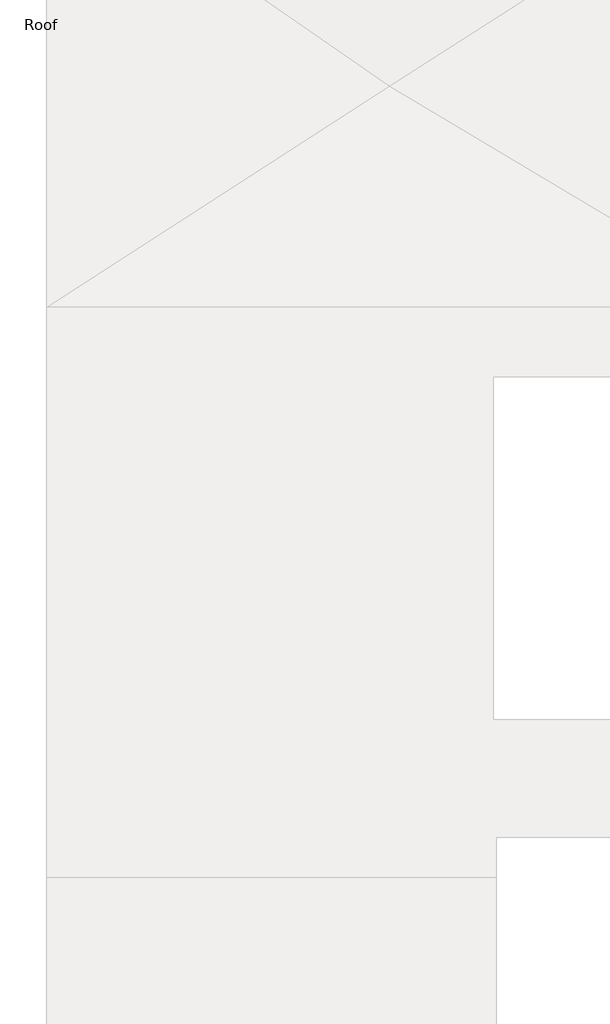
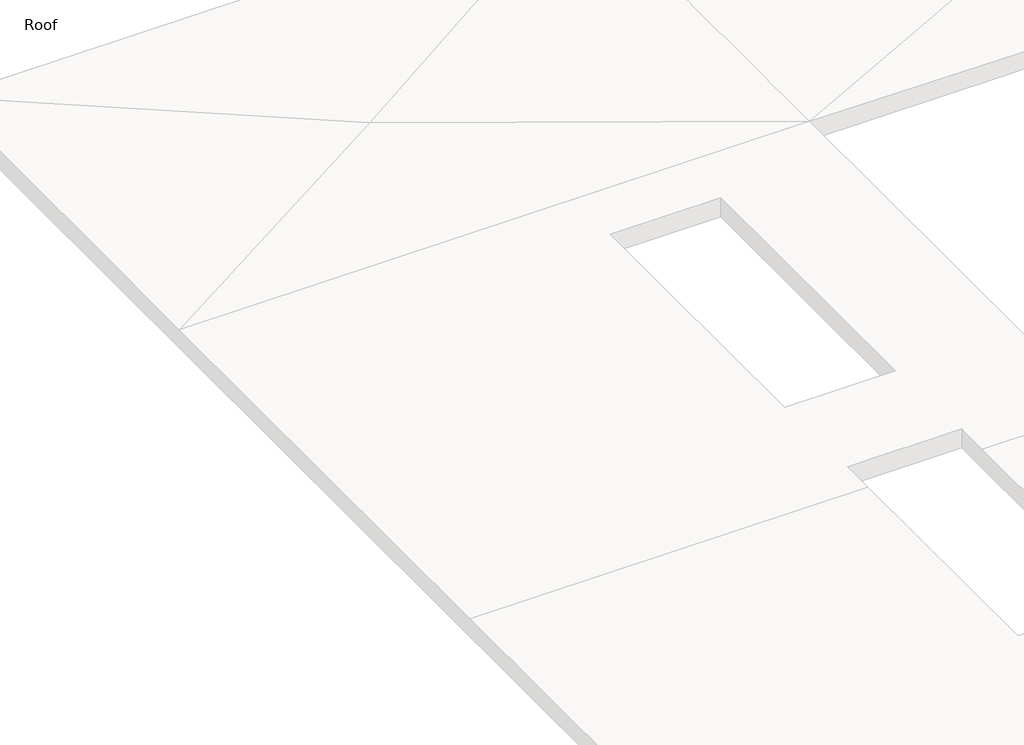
# One storey, part 5 of 7: 16 beams.
"""IFC4 building model written with IfcOpenShell, lengths in millimetres."""

from ifc_helpers import new_model, si_unit, point, frame, frame_2d, origin, place, context, project, spatial, polyline, circle_curve, trimmed, segment, composite_curve, outline, extrude, element, save
from ifc_brep_helpers import plane_surface, revolved_surface, advanced_brep

model = new_model("IFC4")

# Units and contexts
model_context = context("Model", 3, world=origin())
ifc_project = project(units=[si_unit("LENGTHUNIT", "METRE", prefix="MILLI")], contexts=[model_context])

# Site, building, storey
site = spatial("IfcSite", under=ifc_project)
building = spatial("IfcBuilding", under=site)
storey = spatial("IfcBuildingStorey", under=building, Name="Roof", Elevation=11400.0)

# Beams
placement = place(None, origin())
element("IfcBeam", 1, ObjectType="M_Concrete-Rectangular Beam : 400 x 800mm", at=placement, inside=storey, context=model_context, shape_type="SweptSolid", body=[
    extrude(outline(composite_curve([segment(trimmed(circle_curve(frame_2d((-9201.9994416, 19427.3386199)), 225.0), [point((-9001.9994416, 19530.4162606))], [point((-9401.9994416, 19530.4162606))], True, "CARTESIAN"), True, "CONTINUOUS"), segment(polyline([(-9401.9994416, 19530.4162606), (-9401.9994416, 22575.4609793)]), True, "CONTINUOUS"), segment(trimmed(circle_curve(frame_2d((-9201.9994416, 22678.5386199)), 225.0), [point((-9401.9994416, 22575.4609793))], [point((-9098.921801, 22478.5386199))], True, "CARTESIAN"), True, "CONTINUOUS"), segment(polyline([(-9098.921801, 22478.5386199), (-9001.9994416, 22478.5386199), (-9001.9994416, 19530.4162606)]), True, "CONTINUOUS")], self_intersect=False)), frame((0.0, 0.0, 10600.0), z_axis=(0.0, 0.0, 1.0), x_axis=(1.0, 0.0, 0.0)), (0.0, 0.0, 1.0), 400.0),
])
element("IfcBeam", 2, ObjectType="M_Concrete-Rectangular Beam : 400 x 800mm", at=placement, inside=storey, context=model_context, shape_type="AdvancedBrep", body=[
    advanced_brep(
    [(-9401.9994416, 19324.2609793, 10600.0), (-9401.9994416, 13231.2162606, 10600.0), (-9401.9994416, 13231.2162606, 11000.0), (-9401.9994416, 19324.2609793, 11000.0), (-9001.9994416, 19324.2609793, 10600.0), (-9001.9994416, 13328.1386199, 10600.0), (-9001.9994416, 13231.2162606, 10600.0), (-9001.9994416, 19324.2609793, 11000.0), (-9001.9994416, 13328.1386199, 11000.0), (-9001.9994416, 13231.2162606, 11000.0)],
    [
        (0, 1),
        (1, 2),
        (2, 3),
        (3, 0),
        (0, 4, circle_curve(frame((-9201.9994416, 19427.3386199, 10600.0), z_axis=(0.0, 0.0, 1.0), x_axis=(-1.0, 0.0, 0.0)), 225.0)),
        (4, 5),
        (5, 6),
        (6, 1, circle_curve(frame((-9201.9994416, 13128.1386199, 10600.0), z_axis=(0.0, 0.0, 1.0), x_axis=(-1.0, 0.0, 0.0)), 225.0)),
        (4, 7),
        (7, 8),
        (8, 9),
        (9, 6),
        (3, 7, circle_curve(frame((-9201.9994416, 19427.3386199, 11000.0), z_axis=(0.0, 0.0, 1.0), x_axis=(-1.0, 0.0, 0.0)), 225.0)),
        (9, 2, circle_curve(frame((-9201.9994416, 13128.1386199, 11000.0), z_axis=(0.0, 0.0, 1.0), x_axis=(-1.0, 0.0, 0.0)), 225.0)),
    ],
    [
        plane_surface(frame((-9401.9994416, 13365.8386199, 11000.0), z_axis=(-1.0, 0.0, 0.0), x_axis=(0.0, 0.0, -1.0))),
        plane_surface(frame((-9201.9994416, 13365.8386199, 10600.0), z_axis=(0.0, 0.0, -1.0), x_axis=(1.0, 0.0, 0.0))),
        plane_surface(frame((-9001.9994416, 13365.8386199, 11000.0), z_axis=(1.0, 0.0, 0.0), x_axis=(0.0, 0.0, 1.0))),
        revolved_surface(polyline([(-9426.9994416, 19427.3386199, 11000.0), (-9426.9994416, 19427.3386199, 10600.0)]), (-9201.9994416, 19427.3386199, 7600.0), (0.0, 0.0, 1.0)),
        revolved_surface(polyline([(-9426.9994416, 13128.1386199, 11000.0), (-9426.9994416, 13128.1386199, 10600.0)]), (-9201.9994416, 13128.1386199, 7600.0), (0.0, 0.0, 1.0)),
        plane_surface(frame((27511.8999097, 22114.0407562, 11000.0), z_axis=(0.0, 0.0, 1.0), x_axis=(0.0, -1.0, 0.0))),
    ],
    [
        (0, [[1, 2, 3, 4]]),
        (1, [[5, 6, 7, 8, -1]]),
        (2, [[-7, -6, 9, 10, 11, 12]]),
        (3, [[-5, -4, 13, -9]]),
        (4, [[-8, -12, 14, -2]]),
        (5, [[-3, -14, -11, -10, -13]]),
    ],
),
])
element("IfcBeam", 3, ObjectType="M_Concrete-Rectangular Beam : 400 x 800mm", at=placement, inside=storey, context=model_context, shape_type="AdvancedBrep", body=[
    advanced_brep(
    [(-9401.9994416, 13025.0609793, 10600.0), (-9401.9994416, 8752.0162606, 10600.0), (-9401.9994416, 8752.0162606, 11000.0), (-9401.9994416, 13025.0609793, 11000.0), (-9098.921801, 12928.1386199, 10600.0), (-9001.9994416, 12928.1386199, 10600.0), (-9001.9994416, 8848.9386199, 10600.0), (-9001.9994416, 8752.0162606, 10600.0), (-9001.9994416, 12928.1386199, 11000.0), (-9001.9994416, 8848.9386199, 11000.0), (-9001.9994416, 8752.0162606, 11000.0), (-9098.921801, 12928.1386199, 11000.0)],
    [
        (0, 1),
        (1, 2),
        (2, 3),
        (3, 0),
        (0, 4, circle_curve(frame((-9201.9994416, 13128.1386199, 10600.0), z_axis=(0.0, 0.0, 1.0), x_axis=(-1.0, 0.0, 0.0)), 225.0)),
        (4, 5),
        (5, 6),
        (6, 7),
        (7, 1, circle_curve(frame((-9201.9994416, 8648.9386199, 10600.0), z_axis=(0.0, 0.0, 1.0), x_axis=(1.0, 0.0, 0.0)), 225.0)),
        (5, 8),
        (8, 9),
        (9, 10),
        (10, 7),
        (3, 11, circle_curve(frame((-9201.9994416, 13128.1386199, 11000.0), z_axis=(0.0, 0.0, 1.0), x_axis=(-1.0, 0.0, 0.0)), 225.0)),
        (11, 4),
        (11, 8),
        (10, 2, circle_curve(frame((-9201.9994416, 8648.9386199, 11000.0), z_axis=(0.0, 0.0, 1.0), x_axis=(1.0, 0.0, 0.0)), 225.0)),
    ],
    [
        plane_surface(frame((-9401.9994416, 8886.6386199, 11000.0), z_axis=(-1.0, 0.0, 0.0), x_axis=(0.0, 0.0, -1.0))),
        plane_surface(frame((-9201.9994416, 8886.6386199, 10600.0), z_axis=(0.0, 0.0, -1.0), x_axis=(1.0, 0.0, 0.0))),
        plane_surface(frame((-9001.9994416, 8886.6386199, 11000.0), z_axis=(1.0, 0.0, 0.0), x_axis=(0.0, 0.0, 1.0))),
        revolved_surface(polyline([(-9426.9994416, 13128.1386199, 11000.0), (-9426.9994416, 13128.1386199, 10600.0)]), (-9201.9994416, 13128.1386199, 7600.0), (0.0, 0.0, 1.0)),
        plane_surface(frame((-8964.2994416, 12928.1386199, 10600.0), z_axis=(0.0, 1.0, 0.0), x_axis=(1.0, 0.0, 0.0))),
        revolved_surface(polyline([(-8976.9994416, 8648.9386199, 11000.0), (-8976.9994416, 8648.9386199, 10600.0)]), (-9201.9994416, 8648.9386199, 7600.0), (0.0, 0.0, 1.0)),
        plane_surface(frame((27511.8999097, 22114.0407562, 11000.0), z_axis=(0.0, 0.0, 1.0), x_axis=(0.0, -1.0, 0.0))),
    ],
    [
        (0, [[1, 2, 3, 4]]),
        (1, [[5, 6, 7, 8, 9, -1]]),
        (2, [[-8, -7, 10, 11, 12, 13]]),
        (3, [[-5, -4, 14, 15]]),
        (4, [[-6, -15, 16, -10]]),
        (5, [[-9, -13, 17, -2]]),
        (6, [[-3, -17, -12, -11, -16, -14]]),
    ],
),
])
element("IfcBeam", 4, ObjectType="M_Concrete-Rectangular Beam : 400 x 800mm", at=placement, inside=storey, context=model_context, shape_type="SweptSolid", body=[
    extrude(outline(composite_curve([segment(trimmed(circle_curve(frame_2d((754.8005584, 19427.3386199)), 225.0), [point((529.8005584, 19427.3386199))], [point((554.8005584, 19324.2609793))], True, "CARTESIAN"), True, "CONTINUOUS"), segment(polyline([(554.8005584, 19324.2609793), (554.8005584, 19227.3386199), (-1586.7994416, 19227.3386199), (-1586.7994416, 19627.3386199), (554.8005584, 19627.3386199), (554.8005584, 19530.4162606)]), True, "CONTINUOUS"), segment(trimmed(circle_curve(frame_2d((754.8005584, 19427.3386199)), 225.0), [point((554.8005584, 19530.4162606))], [point((529.8005584, 19427.3386199))], True, "CARTESIAN"), True, "CONTINUOUS")], self_intersect=False)), frame((0.0, 0.0, 10600.0), z_axis=(0.0, 0.0, 1.0), x_axis=(1.0, 0.0, 0.0)), (0.0, 0.0, 1.0), 400.0),
])
element("IfcBeam", 5, ObjectType="M_Concrete-Rectangular Beam : 400 x 800mm", at=placement, inside=storey, context=model_context, shape_type="AdvancedBrep", body=[
    advanced_brep(
    [(554.8005584, 13328.1386199, 10600.0), (-1586.7994416, 13328.1386199, 10600.0), (-1586.7994416, 13328.1386199, 11000.0), (554.8005584, 13328.1386199, 11000.0), (554.8005584, 13231.2162606, 10600.0), (529.8005584, 13128.1386199, 10600.0), (651.7229178, 12928.1386199, 10600.0), (554.8005584, 12928.1386199, 10600.0), (-1586.7994416, 12928.1386199, 10600.0), (651.7229178, 12928.1386199, 11000.0), (554.8005584, 12928.1386199, 11000.0), (-1586.7994416, 12928.1386199, 11000.0), (554.8005584, 13231.2162606, 11000.0), (529.8005584, 13128.1386199, 11000.0)],
    [
        (0, 1),
        (1, 2),
        (2, 3),
        (3, 0),
        (0, 4),
        (4, 5, circle_curve(frame((754.8005584, 13128.1386199, 10600.0), z_axis=(0.0, 0.0, 1.0), x_axis=(-1.0, 0.0, 0.0)), 225.0)),
        (5, 6, circle_curve(frame((754.8005584, 13128.1386199, 10600.0), z_axis=(0.0, 0.0, 1.0), x_axis=(-1.0, 0.0, 0.0)), 225.0)),
        (6, 7),
        (7, 8),
        (8, 1),
        (6, 9),
        (9, 10),
        (10, 11),
        (11, 8),
        (3, 12),
        (12, 4),
        (5, 13),
        (13, 9, circle_curve(frame((754.8005584, 13128.1386199, 11000.0), z_axis=(0.0, 0.0, 1.0), x_axis=(-1.0, 0.0, 0.0)), 225.0)),
        (12, 13, circle_curve(frame((754.8005584, 13128.1386199, 11000.0), z_axis=(0.0, 0.0, 1.0), x_axis=(-1.0, 0.0, 0.0)), 225.0)),
        (11, 2),
    ],
    [
        plane_surface(frame((-1649.0994416, 13328.1386199, 11000.0), z_axis=(0.0, 1.0, 0.0), x_axis=(0.0, 0.0, -1.0))),
        plane_surface(frame((-1649.0994416, 13128.1386199, 10600.0), z_axis=(0.0, 0.0, -1.0), x_axis=(0.0, -1.0, 0.0))),
        plane_surface(frame((-1649.0994416, 12928.1386199, 11000.0), z_axis=(0.0, -1.0, 0.0), x_axis=(0.0, 0.0, 1.0))),
        plane_surface(frame((554.8005584, 13365.8386199, 11000.0), z_axis=(1.0, 0.0, 0.0), x_axis=(0.0, 0.0, -1.0))),
        revolved_surface(polyline([(529.8005584, 13128.1386199, 11000.0), (529.8005584, 13128.1386199, 10600.0)]), (754.8005584, 13128.1386199, 7600.0), (0.0, 0.0, 1.0)),
        plane_surface(frame((-1586.7994416, 13365.8386199, 10950.0), z_axis=(-1.0, 0.0, 0.0), x_axis=(0.0, 0.0, 1.0))),
        plane_surface(frame((27511.8999097, 22114.0407562, 11000.0), z_axis=(0.0, 0.0, 1.0), x_axis=(0.0, -1.0, 0.0))),
    ],
    [
        (0, [[1, 2, 3, 4]]),
        (1, [[5, 6, 7, 8, 9, 10, -1]]),
        (2, [[-9, -8, 11, 12, 13, 14]]),
        (3, [[-5, -4, 15, 16]]),
        (4, [[-7, 17, 18, -11]]),
        (4, [[-6, -16, 19, -17]]),
        (5, [[-10, -14, 20, -2]]),
        (6, [[-3, -20, -13, -12, -18, -19, -15]]),
    ],
),
])
element("IfcBeam", 6, ObjectType="M_Concrete-Rectangular Beam : 400 x 800mm", at=placement, inside=storey, context=model_context, shape_type="AdvancedBrep", body=[
    advanced_brep(
    [(-2186.7994416, 13328.1386199, 10600.0), (-3515.5994416, 13328.1386199, 10600.0), (-3915.5994416, 13328.1386199, 10600.0), (-5344.3994416, 13328.1386199, 10600.0), (-5744.3994416, 13328.1386199, 10600.0), (-7173.1994416, 13328.1386199, 10600.0), (-7573.1994416, 13328.1386199, 10600.0), (-9001.9994416, 13328.1386199, 10600.0), (-9001.9994416, 13328.1386199, 11000.0), (-7573.1994416, 13328.1386199, 11000.0), (-7173.1994416, 13328.1386199, 11000.0), (-5744.3994416, 13328.1386199, 11000.0), (-5344.3994416, 13328.1386199, 11000.0), (-3915.5994416, 13328.1386199, 11000.0), (-3515.5994416, 13328.1386199, 11000.0), (-2186.7994416, 13328.1386199, 11000.0), (-9001.9994416, 13231.2162606, 10600.0), (-2186.7994416, 12928.1386199, 10600.0), (-9001.9994416, 12928.1386199, 10600.0), (-9098.921801, 12928.1386199, 10600.0), (-8976.9994416, 13128.1386199, 10600.0), (-2186.7994416, 12928.1386199, 11000.0), (-9001.9994416, 12928.1386199, 11000.0), (-9098.921801, 12928.1386199, 11000.0), (-9001.9994416, 13231.2162606, 11000.0), (-8976.9994416, 13128.1386199, 11000.0)],
    [
        (0, 1),
        (1, 2),
        (2, 3),
        (3, 4),
        (4, 5),
        (5, 6),
        (6, 7),
        (7, 8),
        (8, 9),
        (9, 10),
        (10, 11),
        (11, 12),
        (12, 13),
        (13, 14),
        (14, 15),
        (15, 0),
        (16, 7),
        (0, 17),
        (17, 18),
        (18, 19),
        (19, 20, circle_curve(frame((-9201.9994416, 13128.1386199, 10600.0), z_axis=(0.0, 0.0, 1.0), x_axis=(-1.0, 0.0, 0.0)), 225.0)),
        (20, 16, circle_curve(frame((-9201.9994416, 13128.1386199, 10600.0), z_axis=(0.0, 0.0, 1.0), x_axis=(-1.0, 0.0, 0.0)), 225.0)),
        (17, 21),
        (21, 22),
        (22, 23),
        (23, 19),
        (16, 24),
        (24, 8),
        (23, 25, circle_curve(frame((-9201.9994416, 13128.1386199, 11000.0), z_axis=(0.0, 0.0, 1.0), x_axis=(-1.0, 0.0, 0.0)), 225.0)),
        (25, 20),
        (25, 24, circle_curve(frame((-9201.9994416, 13128.1386199, 11000.0), z_axis=(0.0, 0.0, 1.0), x_axis=(-1.0, 0.0, 0.0)), 225.0)),
        (15, 21),
    ],
    [
        plane_surface(frame((-8964.2994416, 13328.1386199, 11400.0), z_axis=(0.0, 1.0, 0.0), x_axis=(1.0, 0.0, 0.0))),
        plane_surface(frame((-8964.2994416, 13328.1386199, 10600.0), z_axis=(0.0, 0.0, -1.0), x_axis=(1.0, 0.0, 0.0))),
        plane_surface(frame((-8964.2994416, 12928.1386199, 10600.0), z_axis=(0.0, -1.0, 0.0), x_axis=(1.0, 0.0, 0.0))),
        plane_surface(frame((-9001.9994416, 13365.8386199, 11000.0), z_axis=(-1.0, 0.0, 0.0), x_axis=(0.0, 0.0, 1.0))),
        revolved_surface(polyline([(-9426.9994416, 13128.1386199, 11000.0), (-9426.9994416, 13128.1386199, 10600.0)]), (-9201.9994416, 13128.1386199, 7600.0), (0.0, 0.0, 1.0)),
        plane_surface(frame((-2186.7994416, 13352.0677035, 10500.0), z_axis=(1.0, 0.0, 0.0), x_axis=(0.0, -1.0, 0.0))),
        plane_surface(frame((27511.8999097, 22114.0407562, 11000.0), z_axis=(0.0, 0.0, 1.0), x_axis=(0.0, -1.0, 0.0))),
    ],
    [
        (0, [[1, 2, 3, 4, 5, 6, 7, 8, 9, 10, 11, 12, 13, 14, 15, 16]]),
        (1, [[17, -7, -6, -5, -4, -3, -2, -1, 18, 19, 20, 21, 22]]),
        (2, [[-20, -19, 23, 24, 25, 26]]),
        (3, [[-17, 27, 28, -8]]),
        (4, [[-21, -26, 29, 30]]),
        (4, [[-22, -30, 31, -27]]),
        (5, [[-18, -16, 32, -23]]),
        (6, [[-15, -14, -13, -12, -11, -10, -9, -28, -31, -29, -25, -24, -32]]),
    ],
),
])
element("IfcBeam", 7, ObjectType="M_Concrete-Rectangular Beam : 400 x 800mm", at=placement, inside=storey, context=model_context, shape_type="AdvancedBrep", body=[
    advanced_brep(
    [(554.8005584, 7028.9386199, 10600.0), (-1586.7994416, 7028.9386199, 10600.0), (-1586.7994416, 7028.9386199, 11000.0), (554.8005584, 7028.9386199, 11000.0), (554.8005584, 6932.0162606, 10600.0), (529.8005584, 6828.9386199, 10600.0), (651.7229178, 6628.9386199, 10600.0), (554.8005584, 6628.9386199, 10600.0), (-1586.7994416, 6628.9386199, 10600.0), (651.7229178, 6628.9386199, 11000.0), (554.8005584, 6628.9386199, 11000.0), (-1586.7994416, 6628.9386199, 11000.0), (554.8005584, 6932.0162606, 11000.0), (529.8005584, 6828.9386199, 11000.0)],
    [
        (0, 1),
        (1, 2),
        (2, 3),
        (3, 0),
        (0, 4),
        (4, 5, circle_curve(frame((754.8005584, 6828.9386199, 10600.0), z_axis=(0.0, 0.0, 1.0), x_axis=(-1.0, 0.0, 0.0)), 225.0)),
        (5, 6, circle_curve(frame((754.8005584, 6828.9386199, 10600.0), z_axis=(0.0, 0.0, 1.0), x_axis=(-1.0, 0.0, 0.0)), 225.0)),
        (6, 7),
        (7, 8),
        (8, 1),
        (6, 9),
        (9, 10),
        (10, 11),
        (11, 8),
        (3, 12),
        (12, 4),
        (5, 13),
        (13, 9, circle_curve(frame((754.8005584, 6828.9386199, 11000.0), z_axis=(0.0, 0.0, 1.0), x_axis=(-1.0, 0.0, 0.0)), 225.0)),
        (12, 13, circle_curve(frame((754.8005584, 6828.9386199, 11000.0), z_axis=(0.0, 0.0, 1.0), x_axis=(-1.0, 0.0, 0.0)), 225.0)),
        (11, 2),
    ],
    [
        plane_surface(frame((-1649.0994416, 7028.9386199, 11000.0), z_axis=(0.0, 1.0, 0.0), x_axis=(0.0, 0.0, -1.0))),
        plane_surface(frame((-1649.0994416, 6828.9386199, 10600.0), z_axis=(0.0, 0.0, -1.0), x_axis=(0.0, -1.0, 0.0))),
        plane_surface(frame((-1649.0994416, 6628.9386199, 11000.0), z_axis=(0.0, -1.0, 0.0), x_axis=(0.0, 0.0, 1.0))),
        plane_surface(frame((554.8005584, 7066.6386199, 11000.0), z_axis=(1.0, 0.0, 0.0), x_axis=(0.0, 0.0, -1.0))),
        revolved_surface(polyline([(529.8005584, 6828.9386199, 11000.0), (529.8005584, 6828.9386199, 10600.0)]), (754.8005584, 6828.9386199, 7600.0), (0.0, 0.0, 1.0)),
        plane_surface(frame((-1586.7994416, 7066.6386199, 10950.0), z_axis=(-1.0, 0.0, 0.0), x_axis=(0.0, 0.0, 1.0))),
        plane_surface(frame((27511.8999097, 22114.0407562, 11000.0), z_axis=(0.0, 0.0, 1.0), x_axis=(0.0, -1.0, 0.0))),
    ],
    [
        (0, [[1, 2, 3, 4]]),
        (1, [[5, 6, 7, 8, 9, 10, -1]]),
        (2, [[-9, -8, 11, 12, 13, 14]]),
        (3, [[-5, -4, 15, 16]]),
        (4, [[-7, 17, 18, -11]]),
        (4, [[-6, -16, 19, -17]]),
        (5, [[-10, -14, 20, -2]]),
        (6, [[-3, -20, -13, -12, -18, -19, -15]]),
    ],
),
])
element("IfcBeam", 8, ObjectType="M_Concrete-Rectangular Beam : 400 x 800mm", at=placement, inside=storey, context=model_context, shape_type="AdvancedBrep", body=[
    advanced_brep(
    [(-2186.7994416, 7028.9386199, 10600.0), (-9001.9994416, 7028.9386199, 10600.0), (-9001.9994416, 7028.9386199, 11000.0), (-2186.7994416, 7028.9386199, 11000.0), (-9001.9994416, 6932.0162606, 10600.0), (-2186.7994416, 6628.9386199, 10600.0), (-9001.9994416, 6628.9386199, 10600.0), (-9098.921801, 6628.9386199, 10600.0), (-8976.9994416, 6828.9386199, 10600.0), (-2186.7994416, 6628.9386199, 11000.0), (-9001.9994416, 6628.9386199, 11000.0), (-9098.921801, 6628.9386199, 11000.0), (-9001.9994416, 6932.0162606, 11000.0), (-8976.9994416, 6828.9386199, 11000.0)],
    [
        (0, 1),
        (1, 2),
        (2, 3),
        (3, 0),
        (4, 1),
        (0, 5),
        (5, 6),
        (6, 7),
        (7, 8, circle_curve(frame((-9201.9994416, 6828.9386199, 10600.0), z_axis=(0.0, 0.0, 1.0), x_axis=(-1.0, 0.0, 0.0)), 225.0)),
        (8, 4, circle_curve(frame((-9201.9994416, 6828.9386199, 10600.0), z_axis=(0.0, 0.0, 1.0), x_axis=(-1.0, 0.0, 0.0)), 225.0)),
        (5, 9),
        (9, 10),
        (10, 11),
        (11, 7),
        (4, 12),
        (12, 2),
        (11, 13, circle_curve(frame((-9201.9994416, 6828.9386199, 11000.0), z_axis=(0.0, 0.0, 1.0), x_axis=(-1.0, 0.0, 0.0)), 225.0)),
        (13, 8),
        (13, 12, circle_curve(frame((-9201.9994416, 6828.9386199, 11000.0), z_axis=(0.0, 0.0, 1.0), x_axis=(-1.0, 0.0, 0.0)), 225.0)),
        (3, 9),
    ],
    [
        plane_surface(frame((-8964.2994416, 7028.9386199, 11400.0), z_axis=(0.0, 1.0, 0.0), x_axis=(1.0, 0.0, 0.0))),
        plane_surface(frame((-8964.2994416, 7028.9386199, 10600.0), z_axis=(0.0, 0.0, -1.0), x_axis=(1.0, 0.0, 0.0))),
        plane_surface(frame((-8964.2994416, 6628.9386199, 10600.0), z_axis=(0.0, -1.0, 0.0), x_axis=(1.0, 0.0, 0.0))),
        plane_surface(frame((-9001.9994416, 7066.6386199, 11000.0), z_axis=(-1.0, 0.0, 0.0), x_axis=(0.0, 0.0, 1.0))),
        revolved_surface(polyline([(-9426.9994416, 6828.9386199, 11000.0), (-9426.9994416, 6828.9386199, 10600.0)]), (-9201.9994416, 6828.9386199, 7600.0), (0.0, 0.0, 1.0)),
        plane_surface(frame((-2186.7994416, 7052.8677035, 10500.0), z_axis=(1.0, 0.0, 0.0), x_axis=(0.0, -1.0, 0.0))),
        plane_surface(frame((27511.8999097, 22114.0407562, 11000.0), z_axis=(0.0, 0.0, 1.0), x_axis=(0.0, -1.0, 0.0))),
    ],
    [
        (0, [[1, 2, 3, 4]]),
        (1, [[5, -1, 6, 7, 8, 9, 10]]),
        (2, [[-8, -7, 11, 12, 13, 14]]),
        (3, [[-5, 15, 16, -2]]),
        (4, [[-9, -14, 17, 18]]),
        (4, [[-10, -18, 19, -15]]),
        (5, [[-6, -4, 20, -11]]),
        (6, [[-3, -16, -19, -17, -13, -12, -20]]),
    ],
),
])
element("IfcBeam", 9, ObjectType="M_Concrete-Rectangular Beam : 400 x 800mm", at=placement, inside=storey, context=model_context, shape_type="AdvancedBrep", body=[
    advanced_brep(
    [(-9001.9994416, 8752.0162606, 10600.0), (-8976.9994416, 8648.9386199, 10600.0), (-8976.9994416, 8648.9386199, 11000.0), (-9001.9994416, 8752.0162606, 11000.0), (-9098.921801, 8448.9386199, 10600.0), (-9098.921801, 8448.9386199, 11000.0), (-9001.9994416, 8848.9386199, 10600.0), (-9001.9994416, 8848.9386199, 11000.0), (-9001.9994416, 8448.9386199, 10600.0), (-2186.7994416, 8448.9386199, 10600.0), (-2186.7994416, 8448.9386199, 11000.0), (-9001.9994416, 8448.9386199, 11000.0), (-2186.7994416, 8848.9386199, 10600.0), (-2186.7994416, 8848.9386199, 11000.0)],
    [
        (0, 1, circle_curve(frame((-9201.9994416, 8648.9386199, 10600.0), z_axis=(0.0, 0.0, -1.0), x_axis=(1.0, 0.0, 0.0)), 225.0)),
        (1, 2),
        (2, 3, circle_curve(frame((-9201.9994416, 8648.9386199, 11000.0), z_axis=(0.0, 0.0, 1.0), x_axis=(1.0, 0.0, 0.0)), 225.0)),
        (3, 0),
        (1, 4, circle_curve(frame((-9201.9994416, 8648.9386199, 10600.0), z_axis=(0.0, 0.0, -1.0), x_axis=(1.0, 0.0, 0.0)), 225.0)),
        (4, 5),
        (5, 2, circle_curve(frame((-9201.9994416, 8648.9386199, 11000.0), z_axis=(0.0, 0.0, 1.0), x_axis=(1.0, 0.0, 0.0)), 225.0)),
        (6, 0),
        (3, 7),
        (7, 6),
        (4, 8),
        (8, 9),
        (9, 10),
        (10, 11),
        (11, 5),
        (6, 12),
        (12, 9),
        (7, 13),
        (13, 12),
        (13, 10),
    ],
    [
        revolved_surface(polyline([(-8976.9994416, 8648.9386199, 11000.0), (-8976.9994416, 8648.9386199, 10600.0)]), (-9201.9994416, 8648.9386199, 7600.0), (0.0, 0.0, 1.0)),
        plane_surface(frame((-9001.9994416, 8886.6386199, 11000.0), z_axis=(-1.0, 0.0, 0.0), x_axis=(0.0, 0.0, 1.0))),
        plane_surface(frame((-2124.4994416, 8448.9386199, 11400.0), z_axis=(0.0, -1.0, 0.0), x_axis=(-1.0, 0.0, 0.0))),
        plane_surface(frame((-2124.4994416, 8448.9386199, 10600.0), z_axis=(0.0, 0.0, -1.0), x_axis=(-1.0, 0.0, 0.0))),
        plane_surface(frame((-2124.4994416, 8848.9386199, 10600.0), z_axis=(0.0, 1.0, 0.0), x_axis=(-1.0, 0.0, 0.0))),
        plane_surface(frame((-2186.7994416, 8886.6386199, 10950.0), z_axis=(1.0, 0.0, 0.0), x_axis=(0.0, 0.0, -1.0))),
        plane_surface(frame((27511.8999097, 22114.0407562, 11000.0), z_axis=(0.0, 0.0, 1.0), x_axis=(0.0, -1.0, 0.0))),
    ],
    [
        (0, [[1, 2, 3, 4]]),
        (0, [[5, 6, 7, -2]]),
        (1, [[8, -4, 9, 10]]),
        (2, [[11, 12, 13, 14, 15, -6]]),
        (3, [[-5, -1, -8, 16, 17, -12, -11]]),
        (4, [[-16, -10, 18, 19]]),
        (5, [[-17, -19, 20, -13]]),
        (6, [[-3, -7, -15, -14, -20, -18, -9]]),
    ],
),
])
element("IfcBeam", 10, ObjectType="M_Concrete-Rectangular Beam : 400 x 800mm", at=placement, inside=storey, context=model_context, shape_type="AdvancedBrep", body=[
    advanced_brep(
    [(529.8005584, 8648.9386199, 10600.0), (554.8005584, 8752.0162606, 10600.0), (554.8005584, 8752.0162606, 11000.0), (529.8005584, 8648.9386199, 11000.0), (651.7229178, 8448.9386199, 10600.0), (651.7229178, 8448.9386199, 11000.0), (554.8005584, 8848.9386199, 10600.0), (554.8005584, 8848.9386199, 11000.0), (-1586.7994416, 8448.9386199, 10600.0), (554.8005584, 8448.9386199, 10600.0), (554.8005584, 8448.9386199, 11000.0), (-1586.7994416, 8448.9386199, 11000.0), (-1586.7994416, 8848.9386199, 10600.0), (-1586.7994416, 8848.9386199, 11000.0)],
    [
        (0, 1, circle_curve(frame((754.8005584, 8648.9386199, 10600.0), z_axis=(0.0, 0.0, -1.0), x_axis=(1.0, 0.0, 0.0)), 225.0)),
        (1, 2),
        (2, 3, circle_curve(frame((754.8005584, 8648.9386199, 11000.0), z_axis=(0.0, 0.0, 1.0), x_axis=(1.0, 0.0, 0.0)), 225.0)),
        (3, 0),
        (4, 0, circle_curve(frame((754.8005584, 8648.9386199, 10600.0), z_axis=(0.0, 0.0, -1.0), x_axis=(1.0, 0.0, 0.0)), 225.0)),
        (3, 5, circle_curve(frame((754.8005584, 8648.9386199, 11000.0), z_axis=(0.0, 0.0, 1.0), x_axis=(1.0, 0.0, 0.0)), 225.0)),
        (5, 4),
        (1, 6),
        (6, 7),
        (7, 2),
        (8, 9),
        (9, 4),
        (5, 10),
        (10, 11),
        (11, 8),
        (8, 12),
        (12, 6),
        (12, 13),
        (13, 7),
        (11, 13),
    ],
    [
        revolved_surface(polyline([(979.8005584, 8648.9386199, 11000.0), (979.8005584, 8648.9386199, 10600.0)]), (754.8005584, 8648.9386199, 7600.0), (0.0, 0.0, 1.0)),
        plane_surface(frame((554.8005584, 8886.6386199, 11000.0), z_axis=(1.0, 0.0, 0.0), x_axis=(0.0, 0.0, -1.0))),
        plane_surface(frame((517.1005584, 8448.9386199, 11000.0), z_axis=(0.0, -1.0, 0.0), x_axis=(0.0, 0.0, -1.0))),
        plane_surface(frame((517.1005584, 8648.9386199, 10600.0), z_axis=(0.0, 0.0, -1.0), x_axis=(0.0, 1.0, 0.0))),
        plane_surface(frame((517.1005584, 8848.9386199, 11000.0), z_axis=(0.0, 1.0, 0.0), x_axis=(0.0, 0.0, 1.0))),
        plane_surface(frame((-1586.7994416, 7066.6386199, 10950.0), z_axis=(-1.0, 0.0, 0.0), x_axis=(0.0, 0.0, 1.0))),
        plane_surface(frame((27511.8999097, 22114.0407562, 11000.0), z_axis=(0.0, 0.0, 1.0), x_axis=(0.0, -1.0, 0.0))),
    ],
    [
        (0, [[1, 2, 3, 4]]),
        (0, [[5, -4, 6, 7]]),
        (1, [[8, 9, 10, -2]]),
        (2, [[11, 12, -7, 13, 14, 15]]),
        (3, [[-5, -12, -11, 16, 17, -8, -1]]),
        (4, [[-17, 18, 19, -9]]),
        (5, [[-16, -15, 20, -18]]),
        (6, [[-3, -10, -19, -20, -14, -13, -6]]),
    ],
),
])
element("IfcBeam", 11, ObjectType="M_Concrete-Rectangular Beam : 400 x 800mm", at=placement, inside=storey, context=model_context, shape_type="SweptSolid", body=[
    extrude(outline(polyline([(-3915.5994416, 22478.5386199), (-3515.5994416, 22478.5386199), (-3515.5994416, 13328.1386199), (-3915.5994416, 13328.1386199), (-3915.5994416, 22478.5386199)])), frame((0.0, 0.0, 10600.0), z_axis=(0.0, 0.0, 1.0), x_axis=(1.0, 0.0, 0.0)), (0.0, 0.0, 1.0), 400.0),
])
element("IfcBeam", 12, ObjectType="M_Concrete-Rectangular Beam : 400 x 800mm", at=placement, inside=storey, context=model_context, shape_type="SweptSolid", body=[
    extrude(outline(polyline([(-5744.3994416, 22478.5386199), (-5344.3994416, 22478.5386199), (-5344.3994416, 13328.1386199), (-5744.3994416, 13328.1386199), (-5744.3994416, 22478.5386199)])), frame((0.0, 0.0, 10600.0), z_axis=(0.0, 0.0, 1.0), x_axis=(1.0, 0.0, 0.0)), (0.0, 0.0, 1.0), 400.0),
])
element("IfcBeam", 13, ObjectType="M_Concrete-Rectangular Beam : 400 x 800mm", at=placement, inside=storey, context=model_context, shape_type="SweptSolid", body=[
    extrude(outline(polyline([(-7573.1994416, 22478.5386199), (-7173.1994416, 22478.5386199), (-7173.1994416, 13328.1386199), (-7573.1994416, 13328.1386199), (-7573.1994416, 22478.5386199)])), frame((0.0, 0.0, 10600.0), z_axis=(0.0, 0.0, 1.0), x_axis=(1.0, 0.0, 0.0)), (0.0, 0.0, 1.0), 400.0),
])
element("IfcBeam", 14, ObjectType="M_Concrete-Rectangular Beam : 600 x 900", at=placement, inside=storey, context=model_context, shape_type="AdvancedBrep", body=[
    advanced_brep(
    [(-2186.7994416, 19227.3386199, 10500.0), (-2186.7994416, 12928.1386199, 10500.0), (-2186.7994416, 12928.1386199, 10600.0), (-2186.7994416, 12928.1386199, 11000.0), (-2186.7994416, 13328.1386199, 11000.0), (-2186.7994416, 19227.3386199, 11000.0), (-1989.8770822, 19227.3386199, 10500.0), (-1783.721801, 19227.3386199, 10500.0), (-1586.7994416, 19227.3386199, 10500.0), (-1586.7994416, 12928.1386199, 10500.0), (-1783.721801, 12928.1386199, 10500.0), (-1661.7994416, 13128.1386199, 10500.0), (-2111.7994416, 13128.1386199, 10500.0), (-1989.8770822, 12928.1386199, 10500.0), (-1586.7994416, 19227.3386199, 11000.0), (-1586.7994416, 13328.1386199, 11000.0), (-1586.7994416, 12928.1386199, 11000.0), (-1586.7994416, 12928.1386199, 10600.0), (-1783.721801, 12928.1386199, 11000.0), (-1783.721801, 19227.3386199, 11000.0), (-1989.8770822, 19227.3386199, 11000.0), (-2111.7994416, 13128.1386199, 11000.0), (-1989.8770822, 12928.1386199, 11000.0), (-1661.7994416, 13128.1386199, 11000.0)],
    [
        (0, 1),
        (1, 2),
        (2, 3),
        (3, 4),
        (4, 5),
        (5, 0),
        (0, 6),
        (6, 7, circle_curve(frame((-1886.7994416, 19427.3386199, 10500.0), z_axis=(0.0, 0.0, 1.0), x_axis=(-1.0, 0.0, 0.0)), 225.0)),
        (7, 8),
        (8, 9),
        (9, 10),
        (10, 11, circle_curve(frame((-1886.7994416, 13128.1386199, 10500.0), z_axis=(0.0, 0.0, 1.0), x_axis=(-1.0, 0.0, 0.0)), 225.0)),
        (11, 12, circle_curve(frame((-1886.7994416, 13128.1386199, 10500.0), z_axis=(0.0, 0.0, 1.0), x_axis=(-1.0, 0.0, 0.0)), 225.0)),
        (12, 13, circle_curve(frame((-1886.7994416, 13128.1386199, 10500.0), z_axis=(0.0, 0.0, 1.0), x_axis=(-1.0, 0.0, 0.0)), 225.0)),
        (13, 1),
        (8, 14),
        (14, 15),
        (15, 16),
        (16, 17),
        (17, 9),
        (16, 18),
        (18, 10),
        (7, 19),
        (19, 14),
        (6, 20),
        (20, 19, circle_curve(frame((-1886.7994416, 19427.3386199, 11000.0), z_axis=(0.0, 0.0, 1.0), x_axis=(-1.0, 0.0, 0.0)), 225.0)),
        (5, 20),
        (12, 21),
        (21, 22, circle_curve(frame((-1886.7994416, 13128.1386199, 11000.0), z_axis=(0.0, 0.0, 1.0), x_axis=(-1.0, 0.0, 0.0)), 225.0)),
        (22, 13),
        (11, 23),
        (23, 21, circle_curve(frame((-1886.7994416, 13128.1386199, 11000.0), z_axis=(0.0, 0.0, 1.0), x_axis=(-1.0, 0.0, 0.0)), 225.0)),
        (22, 3),
        (18, 23, circle_curve(frame((-1886.7994416, 13128.1386199, 11000.0), z_axis=(0.0, 0.0, 1.0), x_axis=(-1.0, 0.0, 0.0)), 225.0)),
    ],
    [
        plane_surface(frame((-2186.7994416, 13365.8386199, 10950.0), z_axis=(-1.0, 0.0, 0.0), x_axis=(0.0, 0.0, -1.0))),
        plane_surface(frame((-1886.7994416, 13365.8386199, 10500.0), z_axis=(0.0, 0.0, -1.0), x_axis=(1.0, 0.0, 0.0))),
        plane_surface(frame((-1586.7994416, 13365.8386199, 10950.0), z_axis=(1.0, 0.0, 0.0), x_axis=(0.0, 0.0, 1.0))),
        plane_surface(frame((-1562.8703581, 12928.1386199, 11400.0), z_axis=(0.0, -1.0, 0.0), x_axis=(-1.0, 0.0, 0.0))),
        plane_surface(frame((-1649.0994416, 19227.3386199, 11000.0), z_axis=(0.0, 1.0, 0.0), x_axis=(0.0, 0.0, 1.0))),
        revolved_surface(polyline([(-2111.7994416, 19427.3386199, 11000.0), (-2111.7994416, 19427.3386199, 10500.0)]), (-1886.7994416, 19427.3386199, 7600.0), (0.0, 0.0, 1.0)),
        revolved_surface(polyline([(-2111.7994416, 13128.1386199, 11000.0), (-2111.7994416, 13128.1386199, 10500.0)]), (-1886.7994416, 13128.1386199, 7600.0), (0.0, 0.0, 1.0)),
        plane_surface(frame((27511.8999097, 22114.0407562, 11000.0), z_axis=(0.0, 0.0, 1.0), x_axis=(0.0, -1.0, 0.0))),
    ],
    [
        (0, [[1, 2, 3, 4, 5, 6]]),
        (1, [[-1, 7, 8, 9, 10, 11, 12, 13, 14, 15]]),
        (2, [[-10, 16, 17, 18, 19, 20]]),
        (3, [[-11, -20, -19, 21, 22]]),
        (4, [[-9, 23, 24, -16]]),
        (5, [[-8, 25, 26, -23]]),
        (4, [[-7, -6, 27, -25]]),
        (6, [[-14, 28, 29, 30]]),
        (6, [[-13, 31, 32, -28]]),
        (3, [[-15, -30, 33, -3, -2]]),
        (6, [[-12, -22, 34, -31]]),
        (7, [[-5, -4, -33, -29, -32, -34, -21, -18, -17, -24, -26, -27]]),
    ],
),
])
element("IfcBeam", 15, ObjectType="M_Concrete-Rectangular Beam : 600 x 900", at=placement, inside=storey, context=model_context, shape_type="AdvancedBrep", body=[
    advanced_brep(
    [(-2186.7994416, 12928.1386199, 10500.0), (-2186.7994416, 8448.9386199, 10500.0), (-2186.7994416, 8448.9386199, 10600.0), (-2186.7994416, 8448.9386199, 11000.0), (-2186.7994416, 8848.9386199, 11000.0), (-2186.7994416, 12928.1386199, 11000.0), (-1989.8770822, 8448.9386199, 10500.0), (-1989.8770822, 12928.1386199, 10500.0), (-1783.721801, 12928.1386199, 10500.0), (-1586.7994416, 12928.1386199, 10500.0), (-1586.7994416, 8448.9386199, 10500.0), (-1783.721801, 8448.9386199, 10500.0), (-1661.7994416, 8648.9386199, 10500.0), (-2111.7994416, 8648.9386199, 10500.0), (-1586.7994416, 12928.1386199, 11000.0), (-1586.7994416, 8848.9386199, 11000.0), (-1586.7994416, 8448.9386199, 11000.0), (-1586.7994416, 8448.9386199, 10600.0), (-1989.8770822, 8448.9386199, 11000.0), (-1989.8770822, 12928.1386199, 11000.0), (-1783.721801, 12928.1386199, 11000.0), (-1661.7994416, 8648.9386199, 11000.0), (-2111.7994416, 8648.9386199, 11000.0), (-1783.721801, 8448.9386199, 11000.0)],
    [
        (0, 1),
        (1, 2),
        (2, 3),
        (3, 4),
        (4, 5),
        (5, 0),
        (6, 1),
        (0, 7),
        (7, 8, circle_curve(frame((-1886.7994416, 13128.1386199, 10500.0), z_axis=(0.0, 0.0, 1.0), x_axis=(-1.0, 0.0, 0.0)), 225.0)),
        (8, 9),
        (9, 10),
        (10, 11),
        (11, 12, circle_curve(frame((-1886.7994416, 8648.9386199, 10500.0), z_axis=(0.0, 0.0, 1.0), x_axis=(1.0, 0.0, 0.0)), 225.0)),
        (12, 13, circle_curve(frame((-1886.7994416, 8648.9386199, 10500.0), z_axis=(0.0, 0.0, 1.0), x_axis=(1.0, 0.0, 0.0)), 225.0)),
        (13, 6, circle_curve(frame((-1886.7994416, 8648.9386199, 10500.0), z_axis=(0.0, 0.0, 1.0), x_axis=(1.0, 0.0, 0.0)), 225.0)),
        (9, 14),
        (14, 15),
        (15, 16),
        (16, 17),
        (17, 10),
        (6, 18),
        (18, 3),
        (7, 19),
        (19, 20, circle_curve(frame((-1886.7994416, 13128.1386199, 11000.0), z_axis=(0.0, 0.0, 1.0), x_axis=(-1.0, 0.0, 0.0)), 225.0)),
        (20, 8),
        (20, 14),
        (12, 21),
        (21, 22, circle_curve(frame((-1886.7994416, 8648.9386199, 11000.0), z_axis=(0.0, 0.0, 1.0), x_axis=(1.0, 0.0, 0.0)), 225.0)),
        (22, 13),
        (22, 18, circle_curve(frame((-1886.7994416, 8648.9386199, 11000.0), z_axis=(0.0, 0.0, 1.0), x_axis=(1.0, 0.0, 0.0)), 225.0)),
        (16, 23),
        (23, 11),
        (23, 21, circle_curve(frame((-1886.7994416, 8648.9386199, 11000.0), z_axis=(0.0, 0.0, 1.0), x_axis=(1.0, 0.0, 0.0)), 225.0)),
        (5, 19),
    ],
    [
        plane_surface(frame((-2186.7994416, 8886.6386199, 10950.0), z_axis=(-1.0, 0.0, 0.0), x_axis=(0.0, 0.0, -1.0))),
        plane_surface(frame((-1886.7994416, 8886.6386199, 10500.0), z_axis=(0.0, 0.0, -1.0), x_axis=(1.0, 0.0, 0.0))),
        plane_surface(frame((-1586.7994416, 8886.6386199, 10950.0), z_axis=(1.0, 0.0, 0.0), x_axis=(0.0, 0.0, 1.0))),
        plane_surface(frame((-2210.7285251, 8448.9386199, 10600.0), z_axis=(0.0, -1.0, 0.0), x_axis=(1.0, 0.0, 0.0))),
        revolved_surface(polyline([(-2111.7994416, 13128.1386199, 11000.0), (-2111.7994416, 13128.1386199, 10500.0)]), (-1886.7994416, 13128.1386199, 7600.0), (0.0, 0.0, 1.0)),
        plane_surface(frame((-1649.0994416, 12928.1386199, 11000.0), z_axis=(0.0, 1.0, 0.0), x_axis=(0.0, 0.0, 1.0))),
        revolved_surface(polyline([(-1661.7994416, 8648.9386199, 11000.0), (-1661.7994416, 8648.9386199, 10500.0)]), (-1886.7994416, 8648.9386199, 7600.0), (0.0, 0.0, 1.0)),
        plane_surface(frame((27511.8999097, 22114.0407562, 11000.0), z_axis=(0.0, 0.0, 1.0), x_axis=(0.0, -1.0, 0.0))),
    ],
    [
        (0, [[1, 2, 3, 4, 5, 6]]),
        (1, [[7, -1, 8, 9, 10, 11, 12, 13, 14, 15]]),
        (2, [[-11, 16, 17, 18, 19, 20]]),
        (3, [[-7, 21, 22, -3, -2]]),
        (4, [[-9, 23, 24, 25]]),
        (5, [[-10, -25, 26, -16]]),
        (6, [[-14, 27, 28, 29]]),
        (6, [[-15, -29, 30, -21]]),
        (3, [[-12, -20, -19, 31, 32]]),
        (6, [[-13, -32, 33, -27]]),
        (5, [[-8, -6, 34, -23]]),
        (7, [[-5, -4, -22, -30, -28, -33, -31, -18, -17, -26, -24, -34]]),
    ],
),
])
element("IfcBeam", 16, ObjectType="M_Concrete-Rectangular Beam : 600 x 900", at=placement, inside=storey, context=model_context, shape_type="AdvancedBrep", body=[
    advanced_brep(
    [(-2186.7994416, 8448.9386199, 10500.0), (-2186.7994416, 6628.9386199, 10500.0), (-2186.7994416, 6628.9386199, 10600.0), (-2186.7994416, 6628.9386199, 11000.0), (-2186.7994416, 7028.9386199, 11000.0), (-2186.7994416, 8448.9386199, 11000.0), (-1989.8770822, 6628.9386199, 10500.0), (-1989.8770822, 8448.9386199, 10500.0), (-1783.721801, 8448.9386199, 10500.0), (-1586.7994416, 8448.9386199, 10500.0), (-1586.7994416, 6628.9386199, 10500.0), (-1783.721801, 6628.9386199, 10500.0), (-1661.7994416, 6828.9386199, 10500.0), (-2111.7994416, 6828.9386199, 10500.0), (-1586.7994416, 8448.9386199, 11000.0), (-1586.7994416, 7028.9386199, 11000.0), (-1586.7994416, 6628.9386199, 11000.0), (-1586.7994416, 6628.9386199, 10600.0), (-1783.721801, 6628.9386199, 11000.0), (-2111.7994416, 6828.9386199, 11000.0), (-1989.8770822, 6628.9386199, 11000.0), (-1661.7994416, 6828.9386199, 11000.0), (-1989.8770822, 8448.9386199, 11000.0), (-1783.721801, 8448.9386199, 11000.0)],
    [
        (0, 1),
        (1, 2),
        (2, 3),
        (3, 4),
        (4, 5),
        (5, 0),
        (6, 1),
        (0, 7),
        (7, 8, circle_curve(frame((-1886.7994416, 8648.9386199, 10500.0), z_axis=(0.0, 0.0, 1.0), x_axis=(1.0, 0.0, 0.0)), 225.0)),
        (8, 9),
        (9, 10),
        (10, 11),
        (11, 12, circle_curve(frame((-1886.7994416, 6828.9386199, 10500.0), z_axis=(0.0, 0.0, 1.0), x_axis=(-1.0, 0.0, 0.0)), 225.0)),
        (12, 13, circle_curve(frame((-1886.7994416, 6828.9386199, 10500.0), z_axis=(0.0, 0.0, 1.0), x_axis=(-1.0, 0.0, 0.0)), 225.0)),
        (13, 6, circle_curve(frame((-1886.7994416, 6828.9386199, 10500.0), z_axis=(0.0, 0.0, 1.0), x_axis=(-1.0, 0.0, 0.0)), 225.0)),
        (9, 14),
        (14, 15),
        (15, 16),
        (16, 17),
        (17, 10),
        (16, 18),
        (18, 11),
        (13, 19),
        (19, 20, circle_curve(frame((-1886.7994416, 6828.9386199, 11000.0), z_axis=(0.0, 0.0, 1.0), x_axis=(-1.0, 0.0, 0.0)), 225.0)),
        (20, 6),
        (12, 21),
        (21, 19, circle_curve(frame((-1886.7994416, 6828.9386199, 11000.0), z_axis=(0.0, 0.0, 1.0), x_axis=(-1.0, 0.0, 0.0)), 225.0)),
        (20, 3),
        (18, 21, circle_curve(frame((-1886.7994416, 6828.9386199, 11000.0), z_axis=(0.0, 0.0, 1.0), x_axis=(-1.0, 0.0, 0.0)), 225.0)),
        (7, 22),
        (22, 23, circle_curve(frame((-1886.7994416, 8648.9386199, 11000.0), z_axis=(0.0, 0.0, 1.0), x_axis=(1.0, 0.0, 0.0)), 225.0)),
        (23, 8),
        (23, 14),
        (5, 22),
    ],
    [
        plane_surface(frame((-2186.7994416, 7066.6386199, 10950.0), z_axis=(-1.0, 0.0, 0.0), x_axis=(0.0, 0.0, -1.0))),
        plane_surface(frame((-1886.7994416, 7066.6386199, 10500.0), z_axis=(0.0, 0.0, -1.0), x_axis=(1.0, 0.0, 0.0))),
        plane_surface(frame((-1586.7994416, 7066.6386199, 10950.0), z_axis=(1.0, 0.0, 0.0), x_axis=(0.0, 0.0, 1.0))),
        plane_surface(frame((-1562.8703581, 6628.9386199, 11400.0), z_axis=(0.0, -1.0, 0.0), x_axis=(-1.0, 0.0, 0.0))),
        revolved_surface(polyline([(-2111.7994416, 6828.9386199, 11000.0), (-2111.7994416, 6828.9386199, 10500.0)]), (-1886.7994416, 6828.9386199, 7600.0), (0.0, 0.0, 1.0)),
        revolved_surface(polyline([(-1661.7994416, 8648.9386199, 11000.0), (-1661.7994416, 8648.9386199, 10500.0)]), (-1886.7994416, 8648.9386199, 7600.0), (0.0, 0.0, 1.0)),
        plane_surface(frame((-2124.4994416, 8448.9386199, 11400.0), z_axis=(0.0, 1.0, 0.0), x_axis=(-1.0, 0.0, 0.0))),
        plane_surface(frame((27511.8999097, 22114.0407562, 11000.0), z_axis=(0.0, 0.0, 1.0), x_axis=(0.0, -1.0, 0.0))),
    ],
    [
        (0, [[1, 2, 3, 4, 5, 6]]),
        (1, [[7, -1, 8, 9, 10, 11, 12, 13, 14, 15]]),
        (2, [[-11, 16, 17, 18, 19, 20]]),
        (3, [[-12, -20, -19, 21, 22]]),
        (4, [[-15, 23, 24, 25]]),
        (4, [[-14, 26, 27, -23]]),
        (3, [[-7, -25, 28, -3, -2]]),
        (4, [[-13, -22, 29, -26]]),
        (5, [[-9, 30, 31, 32]]),
        (6, [[-10, -32, 33, -16]]),
        (6, [[-8, -6, 34, -30]]),
        (7, [[-5, -4, -28, -24, -27, -29, -21, -18, -17, -33, -31, -34]]),
    ],
),
])

save(model, "model.ifc")
